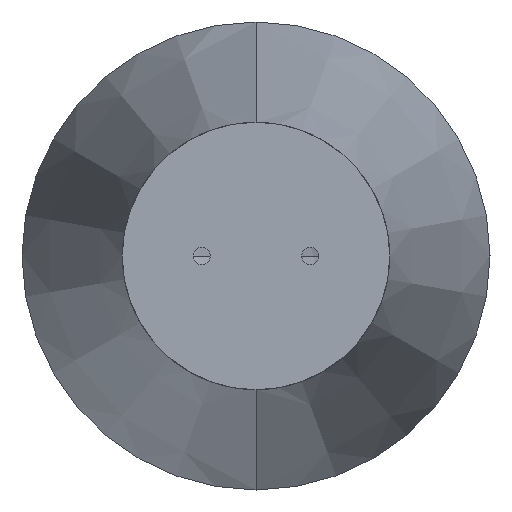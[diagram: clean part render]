
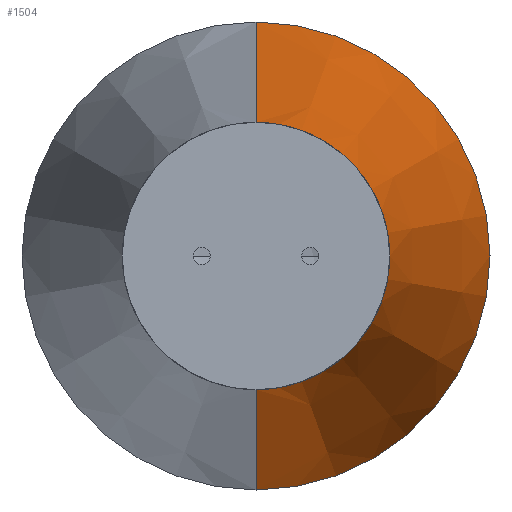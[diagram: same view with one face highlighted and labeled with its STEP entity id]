
A CAD part, front view. The second image highlights one B-rep face of the part: STEP entity #1504.
In plain terms, the highlighted conical face has half-angle 11.691 degrees and reference radius 28 mm.
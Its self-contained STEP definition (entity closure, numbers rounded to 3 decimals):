
#112 = AXIS2_PLACEMENT_3D ( 'NONE', #1097, #1363, #274 ) ;
#161 = AXIS2_PLACEMENT_3D ( 'NONE', #1614, #775, #1767 ) ;
#170 = EDGE_LOOP ( 'NONE', ( #411, #219, #1777, #1828 ) ) ;
#186 = EDGE_CURVE ( 'NONE', #699, #912, #688, .T. ) ;
#219 = ORIENTED_EDGE ( 'NONE', *, *, #1320, .T. ) ;
#274 = DIRECTION ( 'NONE',  ( 0., 0., 1. ) ) ;
#311 = VECTOR ( 'NONE', #805, 1000. ) ;
#344 = CARTESIAN_POINT ( 'NONE',  ( 0., -35., -28. ) ) ;
#411 = ORIENTED_EDGE ( 'NONE', *, *, #674, .T. ) ;
#432 = VERTEX_POINT ( 'NONE', #344 ) ;
#575 = CIRCLE ( 'NONE', #161, 16. ) ;
#607 = CARTESIAN_POINT ( 'NONE',  ( 0., -35., 0. ) ) ;
#623 = CARTESIAN_POINT ( 'NONE',  ( 0., -35., 28. ) ) ;
#662 = VERTEX_POINT ( 'NONE', #1311 ) ;
#674 = EDGE_CURVE ( 'NONE', #699, #662, #575, .T. ) ;
#688 = LINE ( 'NONE', #1653, #311 ) ;
#699 = VERTEX_POINT ( 'NONE', #1390 ) ;
#752 = DIRECTION ( 'NONE',  ( 0., 0., 1. ) ) ;
#775 = DIRECTION ( 'NONE',  ( 0., 1., 0. ) ) ;
#785 = FACE_OUTER_BOUND ( 'NONE', #170, .T. ) ;
#805 = DIRECTION ( 'NONE',  ( 0., 0.979, 0.203 ) ) ;
#836 = EDGE_CURVE ( 'NONE', #912, #432, #1277, .T. ) ;
#859 = CARTESIAN_POINT ( 'NONE',  ( 0., -35., -28. ) ) ;
#912 = VERTEX_POINT ( 'NONE', #623 ) ;
#1097 = CARTESIAN_POINT ( 'NONE',  ( 0., -35., 0. ) ) ;
#1104 = CONICAL_SURFACE ( 'NONE', #112, 28., 0.204 ) ;
#1277 = CIRCLE ( 'NONE', #1760, 28. ) ;
#1311 = CARTESIAN_POINT ( 'NONE',  ( 0., -92.99, -16. ) ) ;
#1320 = EDGE_CURVE ( 'NONE', #662, #432, #1757, .T. ) ;
#1354 = VECTOR ( 'NONE', #1409, 1000. ) ;
#1363 = DIRECTION ( 'NONE',  ( 0., 1., 0. ) ) ;
#1390 = CARTESIAN_POINT ( 'NONE',  ( 0., -92.99, 16. ) ) ;
#1409 = DIRECTION ( 'NONE',  ( 0., 0.979, -0.203 ) ) ;
#1504 = ADVANCED_FACE ( 'NONE', ( #785 ), #1104, .T. ) ;
#1577 = DIRECTION ( 'NONE',  ( 0., 1., 0. ) ) ;
#1614 = CARTESIAN_POINT ( 'NONE',  ( 0., -92.99, 0. ) ) ;
#1653 = CARTESIAN_POINT ( 'NONE',  ( 0., -35., 28. ) ) ;
#1757 = LINE ( 'NONE', #859, #1354 ) ;
#1760 = AXIS2_PLACEMENT_3D ( 'NONE', #607, #1577, #752 ) ;
#1767 = DIRECTION ( 'NONE',  ( 0., 0., 1. ) ) ;
#1777 = ORIENTED_EDGE ( 'NONE', *, *, #836, .F. ) ;
#1828 = ORIENTED_EDGE ( 'NONE', *, *, #186, .F. ) ;
